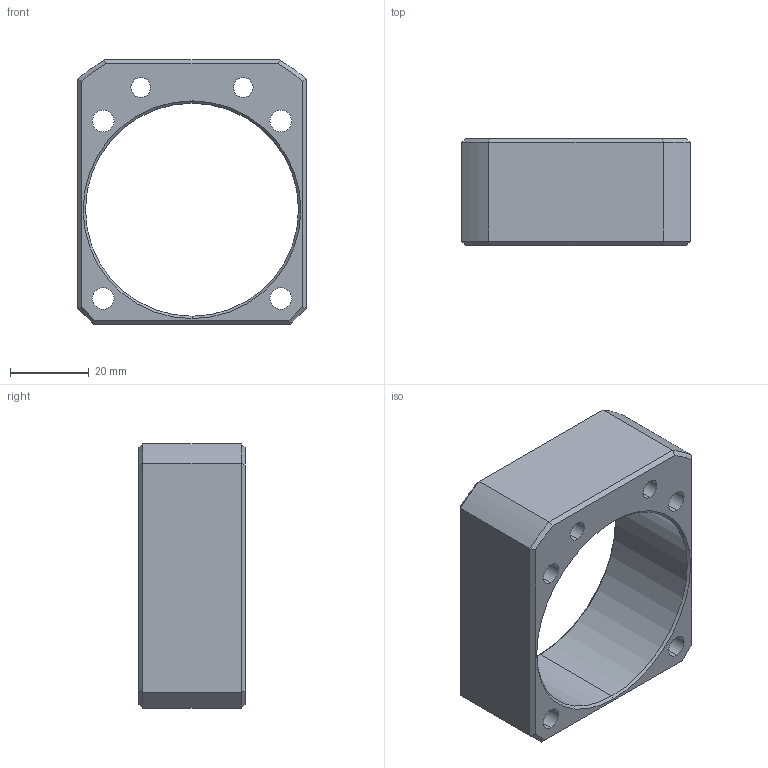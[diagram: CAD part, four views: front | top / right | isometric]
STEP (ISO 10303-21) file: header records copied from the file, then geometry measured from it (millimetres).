
FILE_DESCRIPTION (( 'STEP AP203' ), '1' );
FILE_NAME ('WHZ0400-MD.step', '2010-04-21T15:42:03', ( ' ' ), ( ' ' ), 'SwSTEP 2.0', 'SolidWorks 2009', '' );
FILE_SCHEMA (( 'CONFIG_CONTROL_DESIGN' ));
Length unit declared in the file: millimetre
Products named in the file (1): WHZ0400-MD
Bounding box: 58 x 27 x 67 mm (x, y, z)
Volume: 37720 mm3; surface area: 16200.3 mm2
Topology: 1 solids, 1 shells, 58 faces, 134 edges, 80 vertices
Faces by surface type: plane 22, cylinder 20, cone 16
Entity records: 1743 total; most frequent: DIRECTION 300, CARTESIAN_POINT 297, ORIENTED_EDGE 268, EDGE_CURVE 134, AXIS2_PLACEMENT_3D 115, VERTEX_POINT 80, EDGE_LOOP 74, VECTOR 70
